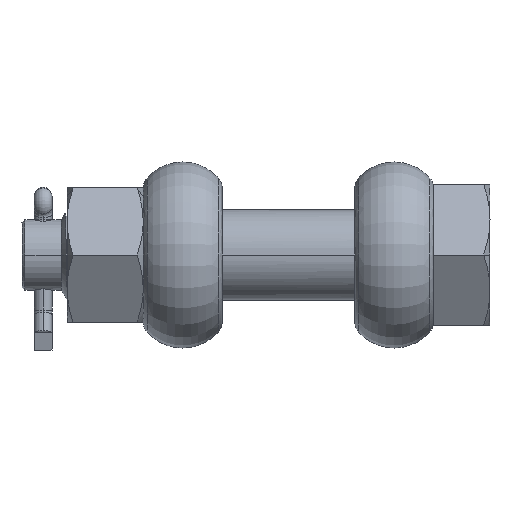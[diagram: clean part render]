
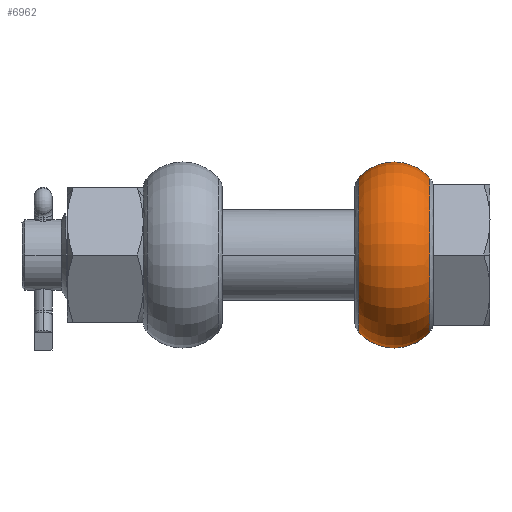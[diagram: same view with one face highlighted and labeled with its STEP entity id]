
A CAD part, front view. The second image highlights one B-rep face of the part: STEP entity #6962.
In plain terms, the highlighted toroidal (fillet/blend) face has major radius 16.2 mm and minor radius 16.8 mm.
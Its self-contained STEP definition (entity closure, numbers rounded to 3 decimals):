
#6308 = EDGE_CURVE ( 'NONE', #6939, #6642, #32225, .T. ) ;
#6640 = EDGE_CURVE ( 'NONE', #6971, #6642, #32948, .T. ) ;
#6642 = VERTEX_POINT ( 'NONE', #32938 ) ;
#6644 = ORIENTED_EDGE ( 'NONE', *, *, #6308, .F. ) ;
#6934 = VERTEX_POINT ( 'NONE', #33347 ) ;
#6938 = EDGE_CURVE ( 'NONE', #6934, #6939, #33342, .T. ) ;
#6939 = VERTEX_POINT ( 'NONE', #33337 ) ;
#6962 = ADVANCED_FACE ( 'NONE', ( #33547 ), #33545, .T. ) ;
#6964 = EDGE_LOOP ( 'NONE', ( #6966, #6968, #6973, #6644 ) ) ;
#6966 = ORIENTED_EDGE ( 'NONE', *, *, #6938, .F. ) ;
#6968 = ORIENTED_EDGE ( 'NONE', *, *, #6970, .F. ) ;
#6970 = EDGE_CURVE ( 'NONE', #6971, #6934, #33493, .T. ) ;
#6971 = VERTEX_POINT ( 'NONE', #33487 ) ;
#6973 = ORIENTED_EDGE ( 'NONE', *, *, #6640, .T. ) ;
#32221 = DIRECTION ( 'NONE',  ( 0., -1., 0. ) ) ;
#32222 = DIRECTION ( 'NONE',  ( 1., 0., 0. ) ) ;
#32223 = CARTESIAN_POINT ( 'NONE',  ( 50.1, 0., 0. ) ) ;
#32224 = AXIS2_PLACEMENT_3D ( 'NONE', #32223, #32222, #32221 ) ;
#32225 = CIRCLE ( 'NONE', #32224, 27.312 ) ;
#32938 = CARTESIAN_POINT ( 'NONE',  ( 50.1, 0., -27.312 ) ) ;
#32944 = DIRECTION ( 'NONE',  ( 0., 0., -1. ) ) ;
#32945 = DIRECTION ( 'NONE',  ( 0., -1., 0. ) ) ;
#32946 = CARTESIAN_POINT ( 'NONE',  ( 37.5, 0., -16.2 ) ) ;
#32947 = AXIS2_PLACEMENT_3D ( 'NONE', #32946, #32945, #32944 ) ;
#32948 = CIRCLE ( 'NONE', #32947, 16.8 ) ;
#33337 = CARTESIAN_POINT ( 'NONE',  ( 50.1, 0., 27.312 ) ) ;
#33338 = DIRECTION ( 'NONE',  ( 0., 0., 1. ) ) ;
#33339 = DIRECTION ( 'NONE',  ( 0., 1., 0. ) ) ;
#33340 = CARTESIAN_POINT ( 'NONE',  ( 37.5, 0., 16.2 ) ) ;
#33341 = AXIS2_PLACEMENT_3D ( 'NONE', #33340, #33339, #33338 ) ;
#33342 = CIRCLE ( 'NONE', #33341, 16.8 ) ;
#33347 = CARTESIAN_POINT ( 'NONE',  ( 24.9, 0., 27.312 ) ) ;
#33487 = CARTESIAN_POINT ( 'NONE',  ( 24.9, 0., -27.312 ) ) ;
#33488 = DIRECTION ( 'NONE',  ( 0., 1., 0. ) ) ;
#33489 = DIRECTION ( 'NONE',  ( -1., 0., 0. ) ) ;
#33490 = CARTESIAN_POINT ( 'NONE',  ( 24.9, 0., 0. ) ) ;
#33491 = AXIS2_PLACEMENT_3D ( 'NONE', #33490, #33489, #33488 ) ;
#33493 = CIRCLE ( 'NONE', #33491, 27.312 ) ;
#33499 = DIRECTION ( 'NONE',  ( 0., 0., -1. ) ) ;
#33500 = DIRECTION ( 'NONE',  ( 1., 0., 0. ) ) ;
#33501 = CARTESIAN_POINT ( 'NONE',  ( 37.5, 0., 0. ) ) ;
#33544 = AXIS2_PLACEMENT_3D ( 'NONE', #33501, #33500, #33499 ) ;
#33545 = TOROIDAL_SURFACE ( 'NONE', #33544, 16.2, 16.8 ) ;
#33547 = FACE_OUTER_BOUND ( 'NONE', #6964, .T. ) ;
